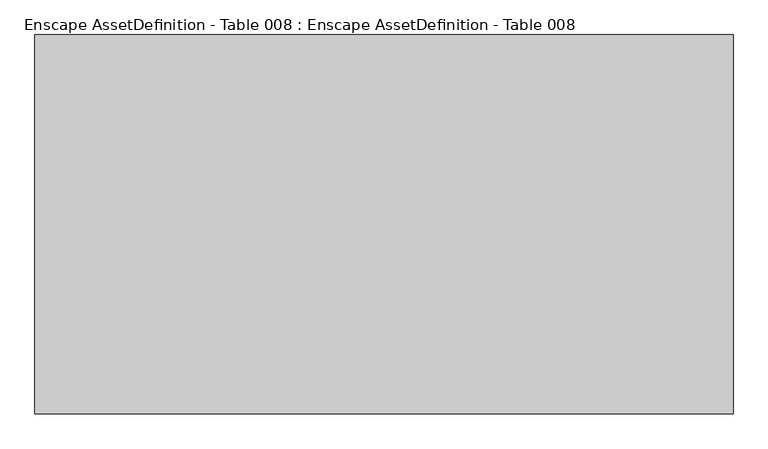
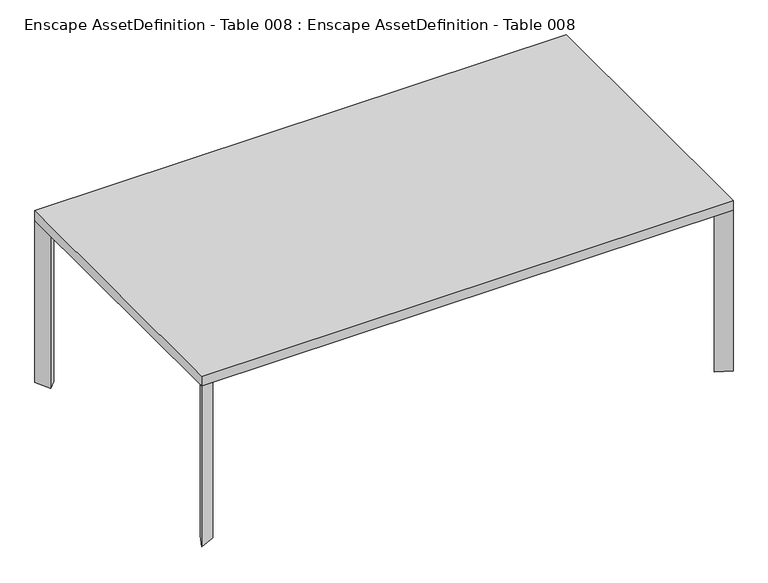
"""IFC4 building model written with IfcOpenShell, lengths in millimetres: geographic element geometry, Enscape AssetDefinition - Table 008 : Enscape AssetDefinition - Table 008."""

from ifc_helpers import new_model, si_unit, origin, place, context, project, spatial, triangles, source, transform, mapped, element, save


def enscape_assetdefinition_table_008_enscape_assetdefinition_f2bec403(model_context):
    return source(origin(), model_context, "Body", "Tessellation", [
        triangles([(-1092.0740387, 593.4060393, 746.3394733), (1092.0740387, -593.4060393, 746.3394733), (1092.0740387, 593.4060393, 746.3394733), (1092.0740387, 593.4060393, 704.0134958), (-1030.6660864, 564.6198967, 702.9244635), (-1092.0740387, 593.4060393, 704.0134958), (-1063.2880051, 531.9980507, 702.9244635), (-1092.0740387, 593.4060393, 0.6841726), (1063.2839355, 532.0249749, 702.9244635), (1030.6939917, 564.6158998, 702.9244635), (1030.6939917, 564.6158998, 4.373319), (1092.0740387, -593.4060393, 704.0134958), (1092.0740387, 593.4060393, 4.373319), (1063.2839355, 532.0249749, 4.373319), (1063.2839355, -532.0249749, 702.9244635), (1030.6939917, -564.6158998, 702.9244635), (1030.6939917, -564.6158998, 4.373319), (1092.0740387, -593.4060393, 4.373319), (1063.2839355, -532.0249749, 4.373319), (-1092.0740387, -593.4060393, 704.0134958), (-1092.0740387, -593.4060393, 746.3394733), (1029.1609457, -530.4920016, 702.9254082), (1029.160001, 530.4920016, 702.9254082), (-1030.6929016, -564.6158998, 702.9244635), (-1029.1609457, 530.4920016, 702.9254082), (-1029.1609457, -530.4920016, 702.9254082), (-1063.2839355, -532.0249749, 702.9244635), (-1063.2880051, 531.9980507, 0.6841726), (-1063.2839355, -532.0249749, 4.373319), (-1030.6929016, -564.6158998, 4.373319), (-1092.0740387, -593.4060393, 4.373319), (-1030.6660864, 564.6198967, 0.6841726)], [[8, 32, 28], [24, 20, 31], [30, 31, 29], [24, 31, 30], [31, 20, 27], [27, 24, 30], [31, 27, 29], [27, 30, 29], [8, 28, 7], [7, 27, 20], [28, 32, 5], [5, 32, 8], [28, 5, 7], [7, 5, 25], [26, 27, 7], [27, 26, 24], [26, 7, 25], [23, 25, 5], [23, 26, 25], [24, 26, 22], [23, 22, 26], [24, 22, 16], [21, 20, 12], [12, 20, 24], [24, 16, 12], [18, 12, 16], [18, 17, 19], [18, 16, 17], [17, 16, 15], [18, 19, 15], [17, 15, 19], [23, 15, 22], [15, 16, 22], [18, 15, 12], [11, 13, 14], [23, 9, 15], [9, 11, 14], [13, 9, 14], [12, 15, 9], [9, 10, 11], [10, 13, 11], [9, 23, 10], [23, 5, 10], [13, 4, 9], [10, 4, 13], [9, 4, 12], [4, 10, 5], [8, 7, 6], [20, 6, 7], [5, 8, 6], [5, 6, 4], [3, 4, 6], [3, 12, 4], [3, 2, 12], [21, 12, 2], [20, 21, 1], [1, 21, 2], [3, 6, 1], [20, 1, 6], [1, 2, 3]]),
    ])


if __name__ == "__main__":
    model = new_model("IFC4")
    model_context = context("Model", 3, world=origin())
    ifc_project = project(units=[si_unit("LENGTHUNIT", "METRE", prefix="MILLI")], contexts=[model_context])
    site = spatial("IfcSite", under=ifc_project)
    building = spatial("IfcBuilding", under=site)
    placement = place(None, origin())
    enscape_assetdefinition_table_008_enscape_assetdefinition_shape = enscape_assetdefinition_table_008_enscape_assetdefinition_f2bec403(model_context)
    element("IfcGeographicElement", 1, ObjectType="Enscape AssetDefinition - Table 008 : Enscape AssetDefinition - Table 008", at=placement, inside=building, context=model_context, shape_type="MappedRepresentation", body=[
        mapped(enscape_assetdefinition_table_008_enscape_assetdefinition_shape, transform((0.0, 0.0, 0.0), x_axis=(1.0, 0.0, 0.0), y_axis=(0.0, 1.0, 0.0), z_axis=(0.0, 0.0, 1.0))),
    ])
    save(model, "model.ifc")
